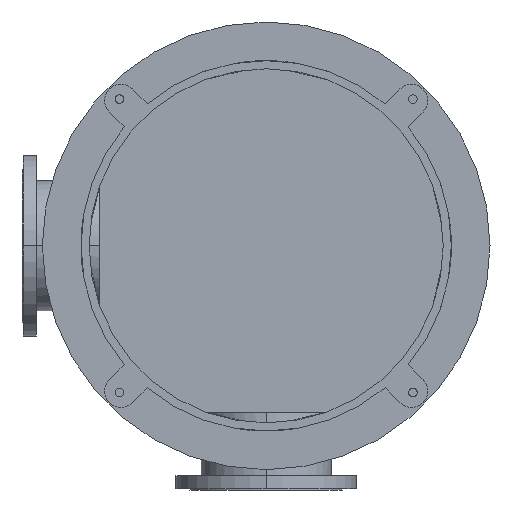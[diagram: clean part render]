
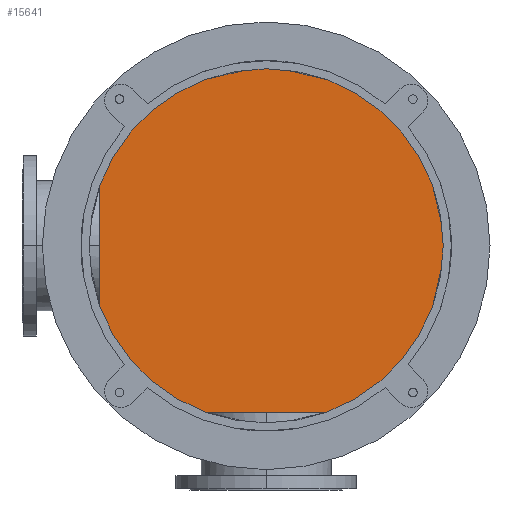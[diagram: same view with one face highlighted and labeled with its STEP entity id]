
A CAD part, front view. The second image highlights one B-rep face of the part: STEP entity #15641.
In plain terms, the highlighted planar face has unit normal (0, -1, 0).
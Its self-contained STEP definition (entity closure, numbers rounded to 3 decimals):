
#3585=CARTESIAN_POINT('',(0.,1000.,0.));
#3586=DIRECTION('',(0.,-1.,0.));
#3587=DIRECTION('',(0.,0.,-1.));
#3588=AXIS2_PLACEMENT_3D('',#3585,#3586,#3587);
#4040=CARTESIAN_POINT('',(0.,1000.,0.));
#4041=DIRECTION('',(0.,-1.,0.));
#4042=DIRECTION('',(0.,0.,1.));
#4043=AXIS2_PLACEMENT_3D('',#4040,#4041,#4042);
#7239=CARTESIAN_POINT('',(0.,1000.,450.));
#7240=CARTESIAN_POINT('',(0.,1000.,-450.));
#7241=VERTEX_POINT('',#7239);
#7242=VERTEX_POINT('',#7240);
#15632=CARTESIAN_POINT('',(0.,1000.,0.));
#15633=DIRECTION('',(0.,1.,0.));
#15634=DIRECTION('',(0.,0.,-1.));
#15635=AXIS2_PLACEMENT_3D('',#15632,#15633,#15634);
#15636=PLANE('',#15635);
#15637=ORIENTED_EDGE('',*,*,#13306,.F.);
#15638=ORIENTED_EDGE('',*,*,#12954,.F.);
#15639=EDGE_LOOP('',(#15637,#15638));
#15640=FACE_OUTER_BOUND('',#15639,.F.);
#15641=ADVANCED_FACE('',(#15640),#15636,.F.);
#3589=CIRCLE('',#3588,450.);
#4044=CIRCLE('',#4043,450.);
#12954=EDGE_CURVE('',#7242,#7241,#3589,.T.);
#13306=EDGE_CURVE('',#7241,#7242,#4044,.T.);
